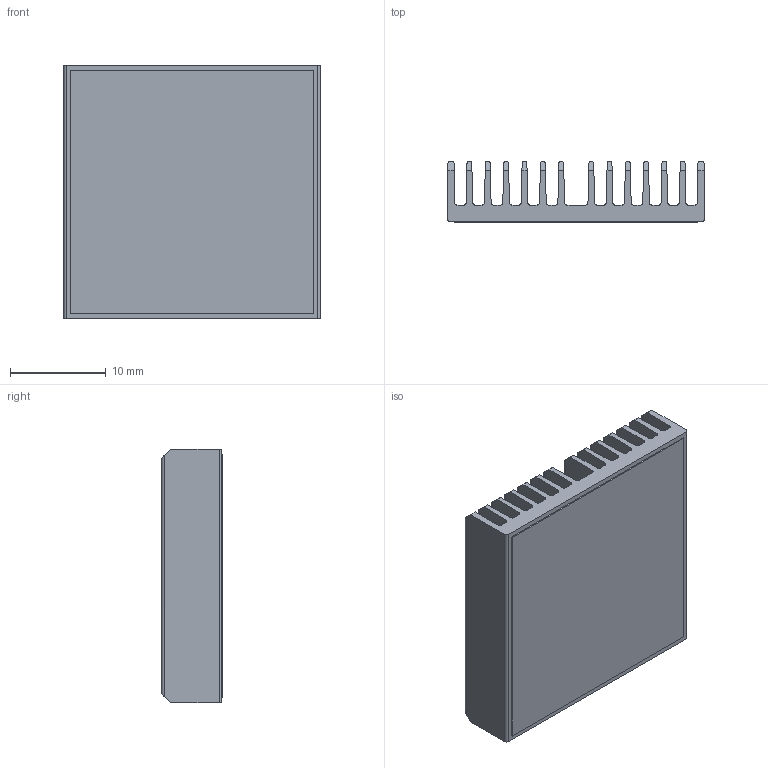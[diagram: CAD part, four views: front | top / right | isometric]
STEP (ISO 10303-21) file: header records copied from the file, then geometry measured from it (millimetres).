
FILE_DESCRIPTION (( 'STEP AP214' ), '1' );
FILE_NAME ('INL27001-6-1.7.STEP', '2023-02-21T21:31:51', ( '' ), ( '' ), 'SwSTEP 2.0', 'SolidWorks 2020', '' );
FILE_SCHEMA (( 'AUTOMOTIVE_DESIGN' ));
Length unit declared in the file: millimetre
Products named in the file (1): INL27001-6-1.7
Bounding box: 26.8 x 6.43 x 26.5 mm (x, y, z)
Volume: 2327.8 mm3; surface area: 6141.6 mm2
Topology: 2 solids, 2 shells, 120 faces, 348 edges, 232 vertices
Faces by surface type: plane 78, cylinder 42
Entity records: 5291 total; most frequent: CARTESIAN_POINT 785, ORIENTED_EDGE 696, DIRECTION 618, EDGE_CURVE 348, VECTOR 264, LINE 264, VERTEX_POINT 232, AXIS2_PLACEMENT_3D 177
